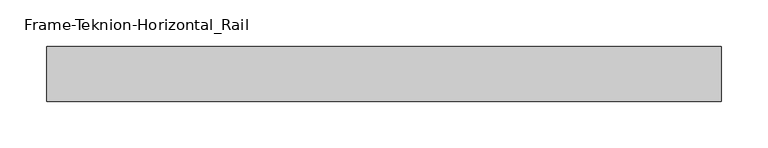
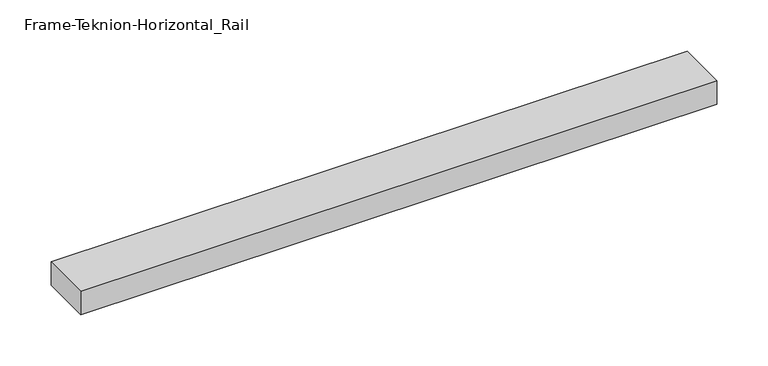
"""IFC4 building model written with IfcOpenShell, lengths in millimetres: proxy geometry, Frame-Teknion-Horizontal_Rail : FPKK."""

from ifc_helpers import new_model, si_unit, frame, origin, place, context, project, spatial, polyline, outline, extrude, source, transform, mapped, element, save


def frame_teknion_horizontal_rail_0c6c6476(model_context):
    return source(origin(), model_context, "Body", "SweptSolid", [
        extrude(outline(polyline([(-360.0152344, -29.2199219), (-360.0152344, 29.2199219), (360.0152344, 29.2199219), (360.0152344, -29.2199219), (-360.0152344, -29.2199219)])), frame((0.0, 0.0, -13.9898438), z_axis=(0.0, 0.0, 1.0), x_axis=(1.0, 0.0, 0.0)), (0.0, 0.0, 1.0), 27.9796875),
    ])


if __name__ == "__main__":
    model = new_model("IFC4")
    model_context = context("Model", 3, world=origin())
    ifc_project = project(units=[si_unit("LENGTHUNIT", "METRE", prefix="MILLI")], contexts=[model_context])
    site = spatial("IfcSite", under=ifc_project)
    building = spatial("IfcBuilding", under=site)
    placement = place(None, origin())
    frame_teknion_horizontal_rail_shape = frame_teknion_horizontal_rail_0c6c6476(model_context)
    element("IfcBuildingElementProxy", 1, Name="Frame-Teknion-Horizontal_Rail : FPKK", ObjectType="Frame-Teknion-Horizontal_Rail : FPKK", at=placement, inside=building, context=model_context, shape_type="MappedRepresentation", body=[
        mapped(frame_teknion_horizontal_rail_shape, transform((0.0, 0.0, 0.0), x_axis=(1.0, 0.0, 0.0), y_axis=(0.0, 1.0, 0.0), z_axis=(0.0, 0.0, 1.0))),
    ])
    save(model, "model.ifc")
